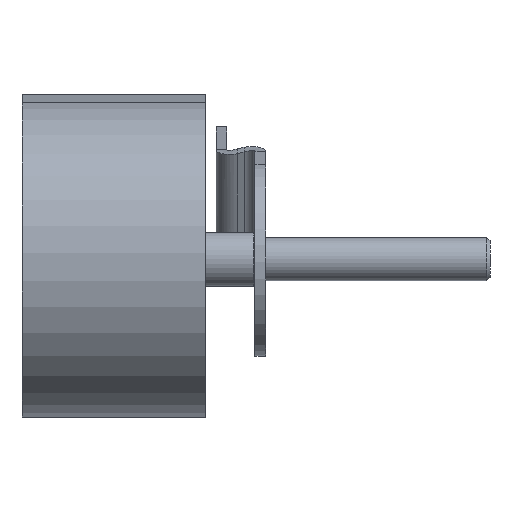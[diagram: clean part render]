
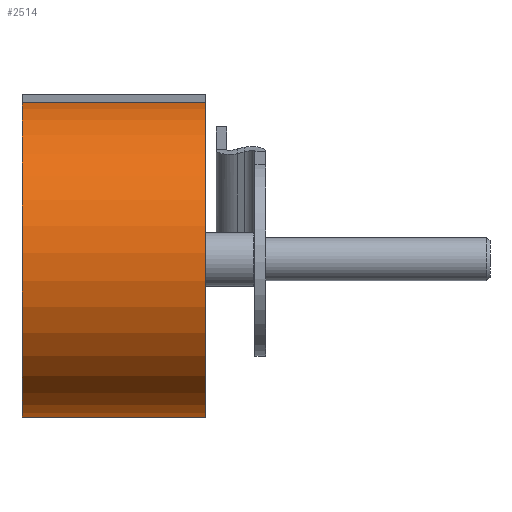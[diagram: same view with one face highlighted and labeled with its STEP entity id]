
A CAD part, left-side view. The second image highlights one B-rep face of the part: STEP entity #2514.
In plain terms, the highlighted cylindrical face has radius 73.3 mm (diameter 146.6 mm), a partial arc.
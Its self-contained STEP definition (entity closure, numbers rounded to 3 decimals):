
#240=FACE_OUTER_BOUND('',#400,.T.);
#400=EDGE_LOOP('',(#2023,#2024,#2025,#2026));
#628=LINE('',#4451,#854);
#629=LINE('',#4455,#855);
#854=VECTOR('',#3243,10.);
#855=VECTOR('',#3248,10.);
#994=CIRCLE('',#2724,73.3);
#1001=CIRCLE('',#2734,73.3);
#1186=VERTEX_POINT('',#4418);
#1187=VERTEX_POINT('',#4420);
#1199=VERTEX_POINT('',#4449);
#1200=VERTEX_POINT('',#4453);
#1476=EDGE_CURVE('',#1186,#1187,#994,.T.);
#1492=EDGE_CURVE('',#1187,#1199,#628,.T.);
#1493=EDGE_CURVE('',#1200,#1199,#1001,.T.);
#1494=EDGE_CURVE('',#1186,#1200,#629,.T.);
#2023=ORIENTED_EDGE('',*,*,#1493,.T.);
#2024=ORIENTED_EDGE('',*,*,#1492,.F.);
#2025=ORIENTED_EDGE('',*,*,#1476,.F.);
#2026=ORIENTED_EDGE('',*,*,#1494,.T.);
#2355=CYLINDRICAL_SURFACE('',#2733,73.3);
#2514=ADVANCED_FACE('',(#240),#2355,.T.);
#2724=AXIS2_PLACEMENT_3D('',#4421,#3216,#3217);
#2733=AXIS2_PLACEMENT_3D('',#4452,#3244,#3245);
#2734=AXIS2_PLACEMENT_3D('',#4454,#3246,#3247);
#3216=DIRECTION('center_axis',(0.,1.,0.));
#3217=DIRECTION('ref_axis',(0.458,0.,-0.889));
#3243=DIRECTION('',(0.,-1.,0.));
#3244=DIRECTION('center_axis',(0.,-1.,0.));
#3245=DIRECTION('ref_axis',(-0.952,0.,-0.305));
#3246=DIRECTION('center_axis',(0.,1.,0.));
#3247=DIRECTION('ref_axis',(0.458,0.,-0.889));
#3248=DIRECTION('',(0.,-1.,0.));
#4418=CARTESIAN_POINT('',(111.843,42.5,-103.925));
#4420=CARTESIAN_POINT('',(67.758,42.5,33.788));
#4421=CARTESIAN_POINT('Origin',(78.3,42.5,-38.75));
#4449=CARTESIAN_POINT('',(67.758,-42.5,33.788));
#4451=CARTESIAN_POINT('',(67.758,42.5,33.788));
#4452=CARTESIAN_POINT('Origin',(78.3,42.5,-38.75));
#4453=CARTESIAN_POINT('',(111.843,-42.5,-103.925));
#4454=CARTESIAN_POINT('Origin',(78.3,-42.5,-38.75));
#4455=CARTESIAN_POINT('',(111.843,42.5,-103.925));
